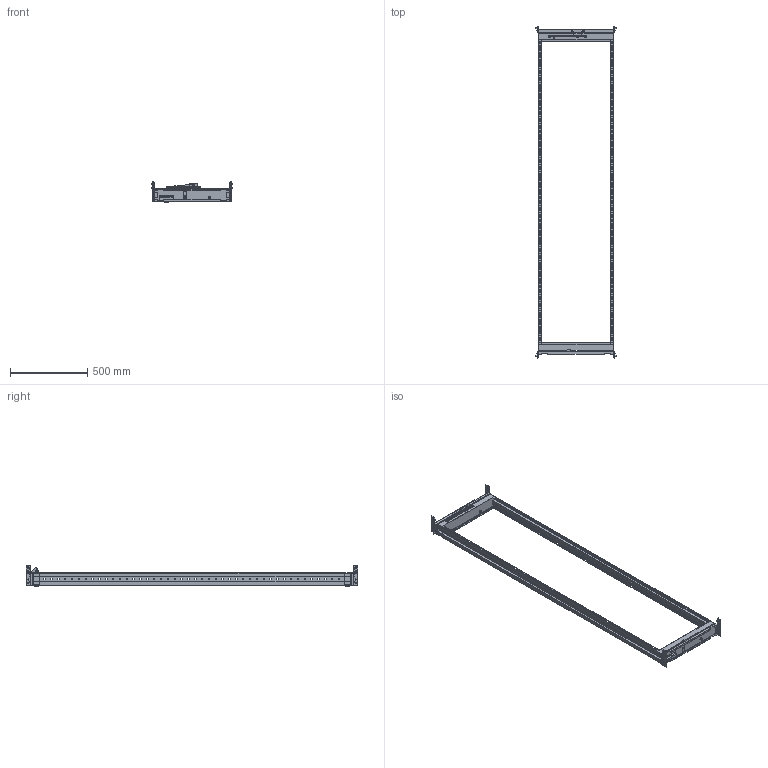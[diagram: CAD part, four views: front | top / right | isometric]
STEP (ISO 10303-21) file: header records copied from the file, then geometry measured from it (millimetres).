
FILE_DESCRIPTION(('Open CASCADE Model'),'2;1');
FILE_NAME('Open CASCADE Shape Model','2025-03-20T14:53:56',('Author'),( 'Open CASCADE'),'Open CASCADE STEP processor 7.8','Open CASCADE 7.8' ,'Unknown');
FILE_SCHEMA(('AUTOMOTIVE_DESIGN { 1 0 10303 214 1 1 1 1 }'));
Length unit declared in the file: millimetre
Products named in the file (30): Compound1; Compound2; Solid1; Solid2; Solid3; Compound3; Solid4; Solid5; Solid6; Solid7; Solid8; Solid9; Solid10; Solid11; Solid12; Solid13; Solid14; Solid15; Compound4; Solid16; Solid17; Solid18; Solid19; Solid20; Solid21; Compound5; Solid22; Solid23; Solid24; Solid25
Assembly tree (50 placements, depth 3):
  Compound1
    Compound2
      Solid1
      Solid2  x2
      Solid3
    Compound3
      Solid4
      Solid2  x2
      Solid3
    Solid5  x2
    Solid6  x2
    Solid7
    Solid8
    Solid9
    Solid10
    Solid11
    Solid12
    Solid13  x2
    Solid14  x4
    Solid15  x8
    Compound4
      Solid16  x2
      Solid17
      Solid18  x2
      Solid19
      Solid20  x2
      Solid21  x2
    Compound5
      Solid22
      Solid23
    Solid24
    Solid25
Bounding box: 526 x 2155 x 130.5 mm (x, y, z)
Volume: 1550865.1 mm3; surface area: 1983803.4 mm2
Topology: 46 solids, 64 shells, 4988 faces, 14457 edges, 9527 vertices
Faces by surface type: plane 3790, cylinder 582, cone 222, bspline 180, torus 156, sphere 58
Entity records: 93724 total; most frequent: CARTESIAN_POINT 22536, ORIENTED_EDGE 15024, DIRECTION 13268, EDGE_CURVE 7682, LINE 6282, VECTOR 6282, VERTEX_POINT 5094, AXIS2_PLACEMENT_3D 3493
